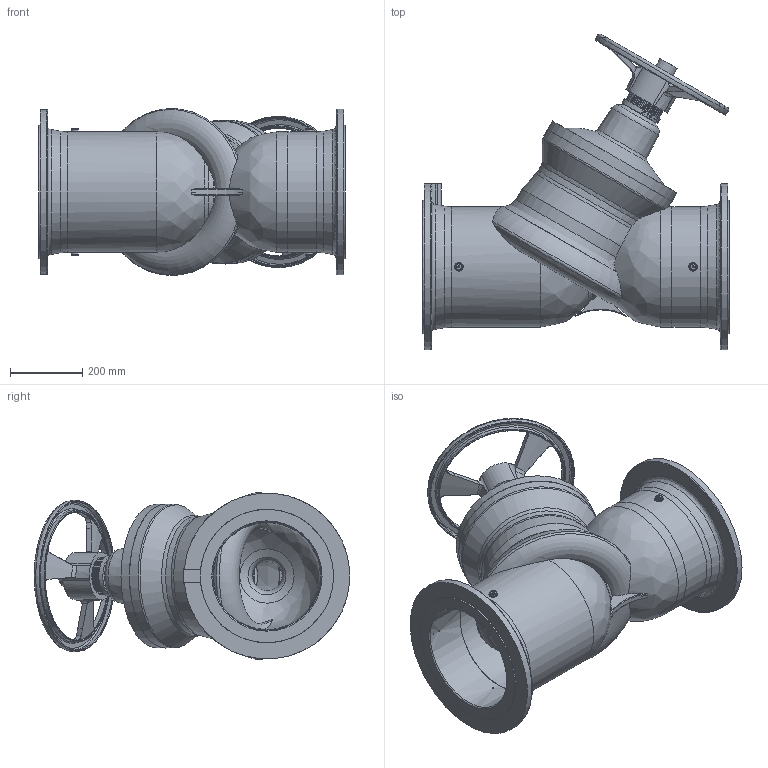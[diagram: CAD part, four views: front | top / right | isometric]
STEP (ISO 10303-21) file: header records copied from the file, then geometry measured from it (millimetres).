
FILE_DESCRIPTION((''),'2;1');
FILE_NAME('P:\Fastrack\53972_CRANE 3D\DM921-941\WORKSPACE\DM921-941\DM921_DN300\DM921_DN300.stp','2011-03-01T15:21:59',('btaylor'),(''),'Autodesk Inventor 2008','Autodesk Inventor 2008','');
FILE_SCHEMA(('AUTOMOTIVE_DESIGN { 1 0 10303 214 1 1 1 1 }'));
Length unit declared in the file: millimetre
Products named in the file (1): DM921_DN300
Bounding box: 850 x 875.54 x 462.62 mm (x, y, z)
Volume: 71560323.2 mm3; surface area: 3379796.3 mm2
Topology: 1 solids, 5 shells, 827 faces, 2147 edges, 1406 vertices
Faces by surface type: plane 284, bspline 277, cylinder 157, cone 71, torus 38
Full cylindrical faces by diameter (mm): 8 x2, 12 x12, 20 x4, 32 x1, 32.7 x1, 45.7 x1, 46.2 x1, 46.8 x1, 50 x1, 63 x1, 84 x1, 98 x1, 114 x1, 122 x1, 295 x1, 300 x1, 325.5 x1, 334 x2, 366.489 x1, 370 x2
Entity records: 77234 total; most frequent: CARTESIAN_POINT 58876, ORIENTED_EDGE 3944, DIRECTION 2764, EDGE_CURVE 1972, VERTEX_POINT 1350, EDGE_LOOP 1049, AXIS2_PLACEMENT_3D 1012, STYLED_ITEM 827
